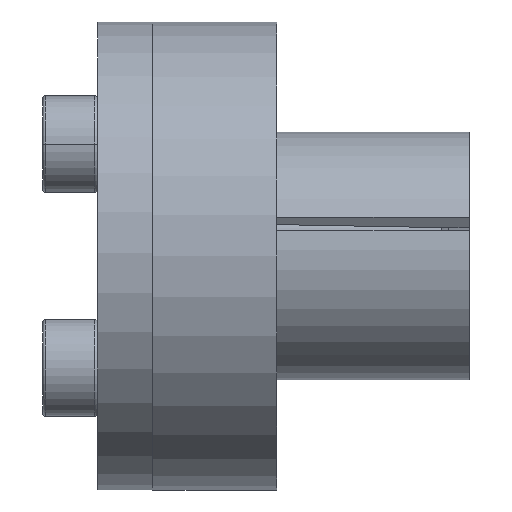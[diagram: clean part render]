
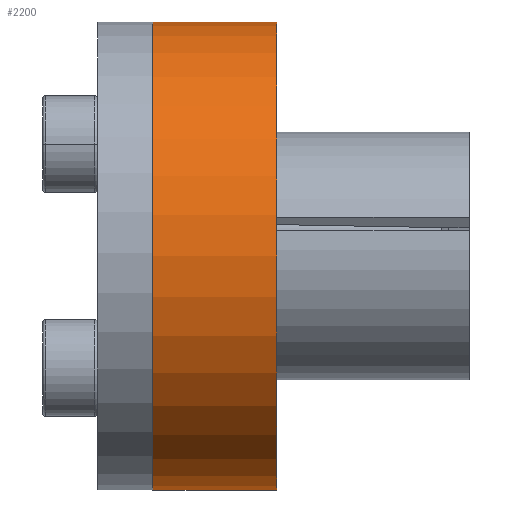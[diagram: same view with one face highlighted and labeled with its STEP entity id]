
A CAD part, front view. The second image highlights one B-rep face of the part: STEP entity #2200.
In plain terms, the highlighted cylindrical face has radius 17 mm (diameter 34 mm), a partial arc.
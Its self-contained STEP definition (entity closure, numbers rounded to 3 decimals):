
#126 = CYLINDRICAL_SURFACE ( 'NONE', #2781, 17. ) ;
#136 = EDGE_CURVE ( 'NONE', #2905, #3222, #3615, .T. ) ;
#165 = VECTOR ( 'NONE', #2685, 1000. ) ;
#187 = CARTESIAN_POINT ( 'NONE',  ( -9.5, 0., 17. ) ) ;
#216 = FACE_OUTER_BOUND ( 'NONE', #3928, .T. ) ;
#405 = VECTOR ( 'NONE', #949, 1000. ) ;
#447 = AXIS2_PLACEMENT_3D ( 'NONE', #2489, #2673, #2997 ) ;
#750 = CARTESIAN_POINT ( 'NONE',  ( -13.5, 0., 17. ) ) ;
#827 = DIRECTION ( 'NONE',  ( -1., 0., 0. ) ) ;
#949 = DIRECTION ( 'NONE',  ( -1., 0., 0. ) ) ;
#1040 = AXIS2_PLACEMENT_3D ( 'NONE', #1757, #2071, #1663 ) ;
#1071 = CARTESIAN_POINT ( 'NONE',  ( -9.5, 0., -17. ) ) ;
#1321 = CARTESIAN_POINT ( 'NONE',  ( -13.5, 0., -17. ) ) ;
#1475 = ORIENTED_EDGE ( 'NONE', *, *, #2380, .T. ) ;
#1488 = CARTESIAN_POINT ( 'NONE',  ( -13.5, 0., 0. ) ) ;
#1663 = DIRECTION ( 'NONE',  ( 0., 0., 1. ) ) ;
#1757 = CARTESIAN_POINT ( 'NONE',  ( -0.5, 0., 0. ) ) ;
#1797 = CIRCLE ( 'NONE', #447, 17. ) ;
#1991 = CARTESIAN_POINT ( 'NONE',  ( -0.5, 0., 17. ) ) ;
#2071 = DIRECTION ( 'NONE',  ( -1., 0., 0. ) ) ;
#2200 = ADVANCED_FACE ( 'NONE', ( #216 ), #126, .T. ) ;
#2260 = CIRCLE ( 'NONE', #1040, 17. ) ;
#2309 = EDGE_CURVE ( 'NONE', #2905, #3171, #2260, .T. ) ;
#2380 = EDGE_CURVE ( 'NONE', #3171, #3472, #3499, .T. ) ;
#2489 = CARTESIAN_POINT ( 'NONE',  ( -9.5, 0., 0. ) ) ;
#2504 = ORIENTED_EDGE ( 'NONE', *, *, #136, .F. ) ;
#2637 = EDGE_CURVE ( 'NONE', #3222, #3472, #1797, .T. ) ;
#2673 = DIRECTION ( 'NONE',  ( -1., 0., 0. ) ) ;
#2685 = DIRECTION ( 'NONE',  ( -1., 0., 0. ) ) ;
#2693 = DIRECTION ( 'NONE',  ( 0., 0., 1. ) ) ;
#2781 = AXIS2_PLACEMENT_3D ( 'NONE', #1488, #827, #2693 ) ;
#2905 = VERTEX_POINT ( 'NONE', #3982 ) ;
#2939 = ORIENTED_EDGE ( 'NONE', *, *, #2637, .F. ) ;
#2997 = DIRECTION ( 'NONE',  ( 0., 0., 1. ) ) ;
#3171 = VERTEX_POINT ( 'NONE', #1991 ) ;
#3222 = VERTEX_POINT ( 'NONE', #1071 ) ;
#3229 = ORIENTED_EDGE ( 'NONE', *, *, #2309, .T. ) ;
#3472 = VERTEX_POINT ( 'NONE', #187 ) ;
#3499 = LINE ( 'NONE', #750, #165 ) ;
#3615 = LINE ( 'NONE', #1321, #405 ) ;
#3928 = EDGE_LOOP ( 'NONE', ( #2504, #3229, #1475, #2939 ) ) ;
#3982 = CARTESIAN_POINT ( 'NONE',  ( -0.5, 0., -17. ) ) ;
